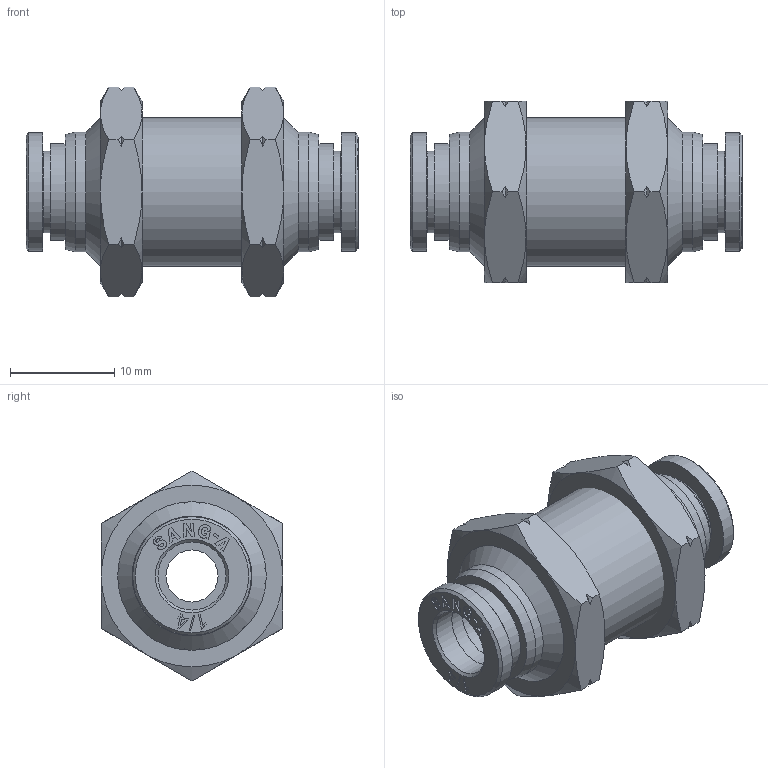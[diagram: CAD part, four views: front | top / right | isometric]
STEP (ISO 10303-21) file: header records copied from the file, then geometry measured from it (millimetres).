
FILE_DESCRIPTION((''),'2;1');
FILE_NAME('C:\Users\user0117\Desktop\김진일\홈페이지\1_4\Internet\G-FITTING INCH (STEP)\GPMM 1_4.stp','2019-12-09T10:01:51',('user0117'),(''),'Autodesk Inventor 2013','Autodesk Inventor 2013','');
FILE_SCHEMA(('AUTOMOTIVE_DESIGN { 1 0 10303 214 1 1 1 1 }'));
Length unit declared in the file: millimetre
Products named in the file (6): GPMM 1_4; GPMM BODY 1-4(BRASS); G-COLLAR G1-4C(ROUND); COLLAR G1-4C; SLEEVE G1-4R; NMM NUT 1_4-UNF9_16
Assembly tree (7 placements, depth 3):
  GPMM 1_4
    GPMM BODY 1-4(BRASS)
    G-COLLAR G1-4C(ROUND)  x2
      COLLAR G1-4C
      SLEEVE G1-4R
    NMM NUT 1_4-UNF9_16  x2
Bounding box: 31.9 x 17.46 x 20.16 mm (x, y, z)
Volume: 4155.5 mm3; surface area: 3787.5 mm2
Topology: 7 solids, 7 shells, 340 faces, 861 edges, 563 vertices
Faces by surface type: plane 208, cone 62, bspline 40, cylinder 30
Full cylindrical faces by diameter (mm): 5 x1, 6.55 x6, 7.85 x2, 9.3 x2, 11.4 x2, 11.5 x2, 12.761 x2, 14.287 x1
Entity records: 5520 total; most frequent: CARTESIAN_POINT 1321, ORIENTED_EDGE 836, DIRECTION 803, EDGE_CURVE 418, VERTEX_POINT 285, VECTOR 269, LINE 269, AXIS2_PLACEMENT_3D 267
